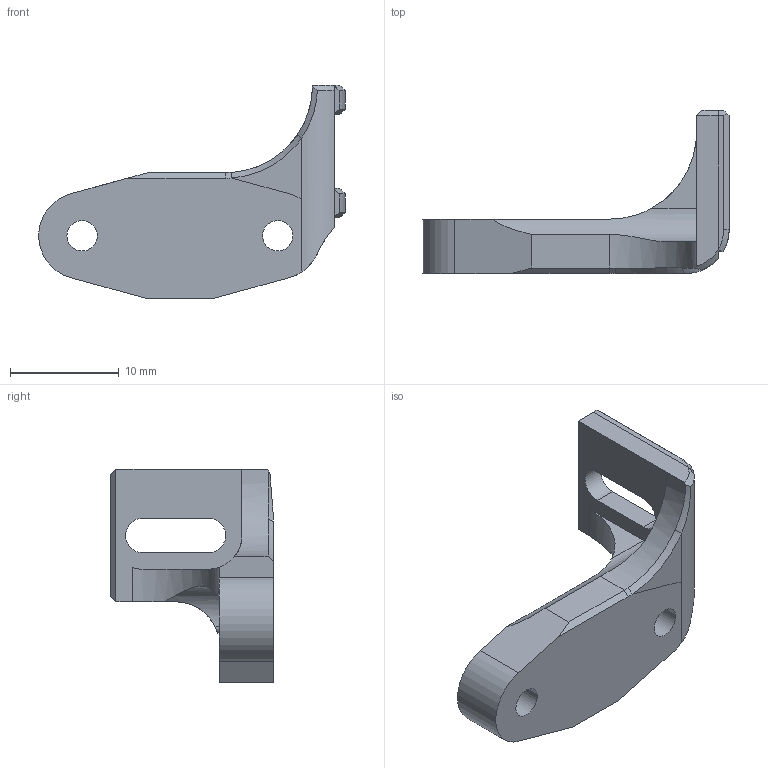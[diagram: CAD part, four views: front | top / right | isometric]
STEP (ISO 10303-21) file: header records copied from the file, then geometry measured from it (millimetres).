
FILE_DESCRIPTION(('CATIA V5 STEP Exchange'),'2;1');
FILE_NAME('C:\Users\loren\Desktop\BONUS_CLIP\COMMON PARTS\SUPPORTO_BLTOUCH.stp','2021-06-19T11:36:03+00:00',('none'),('none'),'CATIA Version 5 Release 20 SP 1 (IN-10)','CATIA V5 STEP AP214','none');
FILE_SCHEMA(('AUTOMOTIVE_DESIGN { 1 0 10303 214 1 1 1 1 }'));
Length unit declared in the file: millimetre
Products named in the file (1): Soporte_BL-TOUCH_MOD
Bounding box: 28.18 x 15 x 19.65 mm (x, y, z)
Volume: 1623.5 mm3; surface area: 1342.2 mm2
Topology: 1 solids, 1 shells, 68 faces, 194 edges, 128 vertices
Faces by surface type: plane 39, cylinder 21, cone 6, bspline 2
Entity records: 2413 total; most frequent: CARTESIAN_POINT 745, ORIENTED_EDGE 388, DIRECTION 258, EDGE_CURVE 194, VERTEX_POINT 128, AXIS2_PLACEMENT_3D 103, VECTOR 94, LINE 94
